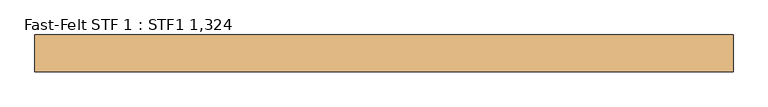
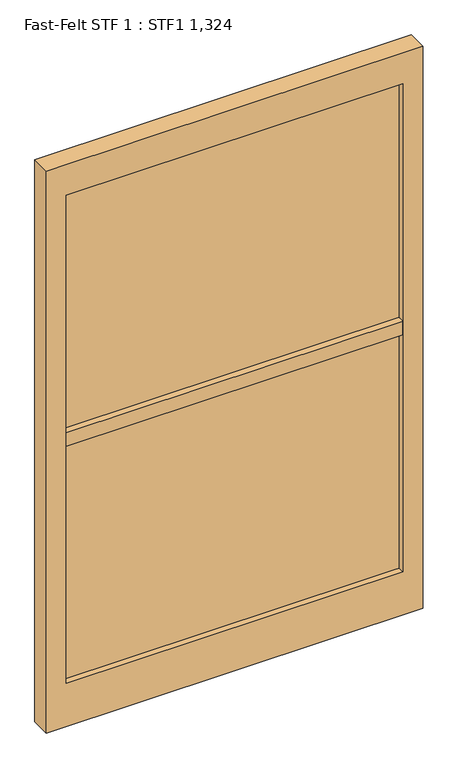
"""IFC4 building model written with IfcOpenShell, lengths in millimetres: door geometry, Fast-Felt STF 1 : STF1 1,324."""

import ifcopenshell
import ifcopenshell.guid

model = None  # the IFC model being written
_history = None  # IfcOwnerHistory: only IFC2X3 demands one
_inside = {}  # id of a spatial element -> (the spatial element, [elements in it])
_under = {}  # id of a project, library or spatial element -> (it, [spatial elements below it])
_declared = {}  # id of a project -> (the project, [libraries it declares])
_typed = {}  # id of a type object -> (the type object, [elements of that type])
_made_of = {}  # id of a material, layer set ... -> (it, [elements and type objects made of it])


def new_model(schema):
    """Start an empty IFC model of exactly this schema.

    Asked for "IFC4X3", IfcOpenShell would pick the latest addendum, in which some entities
    have other attributes; the version numbers below select the first issue.
    IFC2X3 requires an IfcOwnerHistory on every rooted entity: one is made here for all.
    """
    global model, _history
    if schema == "IFC4X3":
        model = ifcopenshell.file(schema_version=(4, 3, 0, 0))
    else:
        model = ifcopenshell.file(schema=schema)
    _inside.clear()
    _under.clear()
    _declared.clear()
    _typed.clear()
    _made_of.clear()
    _history = None
    if model.schema == "IFC2X3":
        org = make("IfcOrganization", Name="unknown")
        user = make(
            "IfcPersonAndOrganization",
            ThePerson=make("IfcPerson", FamilyName="unknown"),
            TheOrganization=org,
        )
        app = make(
            "IfcApplication",
            ApplicationDeveloper=org,
            Version="unknown",
            ApplicationFullName="unknown",
            ApplicationIdentifier="unknown",
        )
        _history = make(
            "IfcOwnerHistory",
            OwningUser=user,
            OwningApplication=app,
            ChangeAction="ADDED",
            CreationDate=0,
        )
    return model


def make(cls, **values):
    """One entity of the class cls with the attributes given. An attribute that is None is left unset."""
    return model.create_entity(
        cls, **{name: value for name, value in values.items() if value is not None}
    )


def rooted(cls, **values):
    """An entity with a GlobalId (a new one), such as an element, a storey or a relation."""
    return make(cls, GlobalId=ifcopenshell.guid.new(), OwnerHistory=_history, **values)


def si_unit(unit_type, name, prefix=None):
    """IfcSIUnit, for example si_unit("LENGTHUNIT", "METRE", prefix="MILLI")."""
    return make("IfcSIUnit", UnitType=unit_type, Prefix=prefix, Name=name)


def assignment(units):
    """IfcUnitAssignment: the units of a project."""
    return None if units is None else make("IfcUnitAssignment", Units=units)


def point(xyz):
    """IfcCartesianPoint."""
    return None if xyz is None else make("IfcCartesianPoint", Coordinates=xyz)


def direction(xyz):
    """IfcDirection."""
    return None if xyz is None else make("IfcDirection", DirectionRatios=xyz)


def frame(location, z_axis=None, x_axis=None):
    """IfcAxis2Placement3D, a coordinate frame: its origin and axes. An axis left out is left unset."""
    return make(
        "IfcAxis2Placement3D",
        Location=point(location),
        Axis=direction(z_axis),
        RefDirection=direction(x_axis),
    )


def origin():
    """The frame at (0, 0, 0) with its axes left unset."""
    return frame((0.0, 0.0, 0.0))


def place(relative_to, where):
    """IfcLocalPlacement: puts the frame where relative to a parent placement (None: the world)."""
    return make(
        "IfcLocalPlacement", PlacementRelTo=relative_to, RelativePlacement=where
    )


def context(
    kind, dimensions, precision=None, world=None, true_north=None, identifier=None
):
    """IfcGeometricRepresentationContext, for example the 3D "Model" context."""
    return make(
        "IfcGeometricRepresentationContext",
        ContextIdentifier=identifier,
        ContextType=kind,
        CoordinateSpaceDimension=dimensions,
        Precision=precision,
        WorldCoordinateSystem=world,
        TrueNorth=true_north,
    )


def project(units=None, contexts=None):
    """IfcProject with its units and contexts."""
    return rooted(
        "IfcProject",
        Name="project",
        RepresentationContexts=contexts,
        UnitsInContext=assignment(units),
    )


def spatial(cls, under=None, at=None, **own):
    """A site, building, storey or space (cls), placed at a placement, below another one or the project."""
    s = rooted(cls, ObjectPlacement=at, **own)
    if under is not None:
        _under.setdefault(under.id(), (under, []))[1].append(s)
    return s


def polyline(points):
    """IfcPolyline through the points."""
    return make("IfcPolyline", Points=[point(p) for p in points])


def outline(outer, holes=None, kind="AREA"):
    """IfcArbitraryClosedProfileDef: a profile drawn as a closed curve; with holes, ...WithVoids."""
    if holes is None:
        return make("IfcArbitraryClosedProfileDef", ProfileType=kind, OuterCurve=outer)
    return make(
        "IfcArbitraryProfileDefWithVoids",
        ProfileType=kind,
        OuterCurve=outer,
        InnerCurves=holes,
    )


def extrude(swept, where, along, depth):
    """IfcExtrudedAreaSolid: the profile swept, set in the frame where, extruded along a direction by depth."""
    return make(
        "IfcExtrudedAreaSolid",
        SweptArea=swept,
        Position=where,
        ExtrudedDirection=direction(along),
        Depth=depth,
    )


def shape(context_of_items, identifier, shape_type, items):
    """IfcShapeRepresentation: the items that make up one representation, for example the "Body"."""
    return make(
        "IfcShapeRepresentation",
        ContextOfItems=context_of_items,
        RepresentationIdentifier=identifier,
        RepresentationType=shape_type,
        Items=items,
    )


def source(mapping_origin, context_of_items, identifier, shape_type, items):
    """IfcRepresentationMap: a shape defined once, which mapped items show again and again."""
    return make(
        "IfcRepresentationMap",
        MappingOrigin=mapping_origin,
        MappedRepresentation=shape(context_of_items, identifier, shape_type, items),
    )


def transform(
    local_origin,
    x_axis=None,
    y_axis=None,
    z_axis=None,
    scale=None,
    scale2=None,
    scale3=None,
    uniform=True,
):
    """IfcCartesianTransformationOperator3D, or its non-uniform kind. x_axis, y_axis, z_axis: its Axis1, 2, 3."""
    if uniform:
        return make(
            "IfcCartesianTransformationOperator3D",
            Axis1=direction(x_axis),
            Axis2=direction(y_axis),
            LocalOrigin=point(local_origin),
            Scale=scale,
            Axis3=direction(z_axis),
        )
    return make(
        "IfcCartesianTransformationOperator3DnonUniform",
        Axis1=direction(x_axis),
        Axis2=direction(y_axis),
        LocalOrigin=point(local_origin),
        Scale=scale,
        Axis3=direction(z_axis),
        Scale2=scale2,
        Scale3=scale3,
    )


def mapped(mapping_source, mapping_target):
    """IfcMappedItem: shows the shape of a source again, moved by a transform."""
    return make(
        "IfcMappedItem", MappingSource=mapping_source, MappingTarget=mapping_target
    )


def made_of(thing, what):
    """Note that an element or type object is made of a material, layer set ...; save() writes the relation."""
    if what is not None:
        _made_of.setdefault(what.id(), (what, []))[1].append(thing)
    return thing


def element(
    cls,
    number,
    at=None,
    inside=None,
    cuts=None,
    type_object=None,
    material=None,
    context=None,
    identifier="Body",
    shape_type=None,
    held_by="IfcProductDefinitionShape",
    body=None,
    shapes=None,
    **own,
):
    """One element of the class cls, such as IfcWall. Its Tag is "e" and its number.

    at: its placement. inside: the storey or other place that contains it. cuts: it is an
    opening in that element (IfcRelVoidsElement). A single representation is given by context,
    identifier, shape_type and body (its items); several are given by shapes. held_by: the class
    of the entity that holds the representations. save() writes the other relations.
    """
    e = rooted(cls, Tag="e%d" % number, ObjectPlacement=at, **own)
    if body is not None:
        shapes = [shape(context, identifier, shape_type, body)]
    if shapes is not None:
        e.Representation = make(held_by, Representations=shapes)
    if inside is not None:
        _inside.setdefault(inside.id(), (inside, []))[1].append(e)
    if cuts is not None:
        rooted(
            "IfcRelVoidsElement", RelatingBuildingElement=cuts, RelatedOpeningElement=e
        )
    if type_object is not None:
        _typed.setdefault(type_object.id(), (type_object, []))[1].append(e)
    return made_of(e, material)


def aggregate(whole, parts):
    """IfcRelAggregates: a whole, such as a stair, and the parts it consists of."""
    return rooted("IfcRelAggregates", RelatingObject=whole, RelatedObjects=parts)


def save(model, path):
    """Write the relations noted so far, then the file.

    IfcRelAggregates (storeys below a building ...), IfcRelContainedInSpatialStructure (elements
    in a storey), IfcRelDefinesByType, IfcRelAssociatesMaterial and IfcRelDeclares: one each for
    every whole, place, type object, material and project.
    """
    for whole, parts in _under.values():
        aggregate(whole, parts)
    for where, things in _inside.values():
        rooted(
            "IfcRelContainedInSpatialStructure",
            RelatedElements=things,
            RelatingStructure=where,
        )
    for kind, things in _typed.values():
        rooted("IfcRelDefinesByType", RelatedObjects=things, RelatingType=kind)
    for what, things in _made_of.values():
        rooted("IfcRelAssociatesMaterial", RelatedObjects=things, RelatingMaterial=what)
    for by, libraries in _declared.values():
        rooted("IfcRelDeclares", RelatingContext=by, RelatedDefinitions=libraries)
    model.write(path)


def fast_felt_stf_1_stf1_1_324_1ef75639(model_context):
    return source(origin(), model_context, "Body", "SweptSolid", [
        extrude(outline(polyline([(-592.0, -7.0), (592.0, -7.0), (592.0, -31.0), (-592.0, -31.0), (-592.0, -7.0)])), frame((0.0, 0.0, 160.0), z_axis=(0.0, 0.0, 1.0), x_axis=(1.0, 0.0, 0.0)), (0.0, 0.0, 1.0), 881.5),
        extrude(outline(polyline([(-592.0, -7.0), (592.0, -7.0), (592.0, -31.0), (-592.0, -31.0), (-592.0, -7.0)])), frame((0.0, 0.0, 1091.5), z_axis=(0.0, 0.0, 1.0), x_axis=(1.0, 0.0, 0.0)), (0.0, 0.0, 1.0), 881.5),
        extrude(outline(polyline([(0.0, -662.0), (0.0, 662.0), (2088.0, 662.0), (2088.0, -662.0), (0.0, -662.0)]), holes=[polyline([(160.0, 592.0), (160.0, -592.0), (1973.0, -592.0), (1973.0, 592.0), (160.0, 592.0)])]), frame((0.0, -54.0, 0.0), z_axis=(0.0, 1.0, 0.0), x_axis=(0.0, 0.0, 1.0)), (0.0, 0.0, 1.0), 70.0),
        extrude(outline(polyline([(1041.5, -592.0), (1041.5, 592.0), (1066.5, 592.0), (1091.5, 592.0), (1091.5, -592.0), (1041.5, -592.0)])), frame((0.0, -54.0, 0.0), z_axis=(0.0, 1.0, 0.0), x_axis=(0.0, 0.0, 1.0)), (0.0, 0.0, 1.0), 70.0),
    ])


if __name__ == "__main__":
    model = new_model("IFC4")
    model_context = context("Model", 3, world=origin())
    ifc_project = project(units=[si_unit("LENGTHUNIT", "METRE", prefix="MILLI")], contexts=[model_context])
    site = spatial("IfcSite", under=ifc_project)
    building = spatial("IfcBuilding", under=site)
    placement = place(None, origin())
    fast_felt_stf_1_stf1_1_324_shape = fast_felt_stf_1_stf1_1_324_1ef75639(model_context)
    element("IfcDoor", 1, ObjectType="Fast-Felt STF 1 : STF1 1,324", at=placement, inside=building, context=model_context, shape_type="MappedRepresentation", body=[
        mapped(fast_felt_stf_1_stf1_1_324_shape, transform((0.0, 0.0, 0.0), x_axis=(1.0, 0.0, 0.0), y_axis=(0.0, 1.0, 0.0), z_axis=(0.0, 0.0, 1.0))),
    ])
    save(model, "model.ifc")
